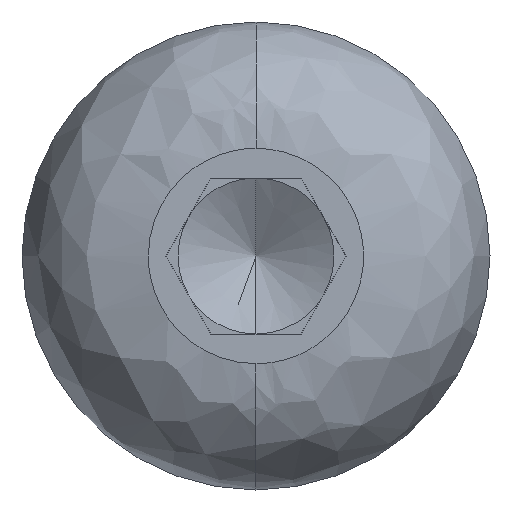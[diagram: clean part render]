
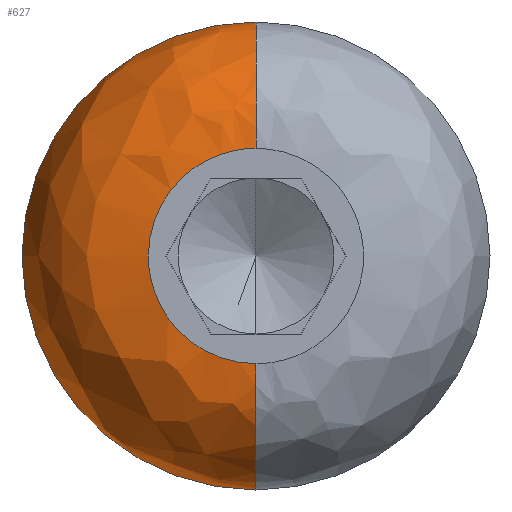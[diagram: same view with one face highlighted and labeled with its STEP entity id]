
A CAD part, left-side view. The second image highlights one B-rep face of the part: STEP entity #627.
In plain terms, the highlighted free-form (B-spline) face has degree [3, 3] with [4, 4] control points.
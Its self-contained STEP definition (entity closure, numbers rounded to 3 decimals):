
#6 = CARTESIAN_POINT ( 'NONE',  ( 0., 1.617, 2.76 ) ) ;
#28 = CARTESIAN_POINT ( 'NONE',  ( 3.24, 0., -6. ) ) ;
#30 = CARTESIAN_POINT ( 'NONE',  ( 3.24, 12., -6. ) ) ;
#32 = CARTESIAN_POINT ( 'NONE',  ( 3.24, 12., 6. ) ) ;
#37 = CARTESIAN_POINT ( 'NONE',  ( 3.24, 0., 6. ) ) ;
#38 = CARTESIAN_POINT ( 'NONE',  ( 1.342, 0., -6. ) ) ;
#46 = VERTEX_POINT ( 'NONE', #639 ) ;
#50 = CARTESIAN_POINT ( 'NONE',  ( 1.342, 12., -6. ) ) ;
#54 = CARTESIAN_POINT ( 'NONE',  ( 1.342, 12., 6. ) ) ;
#57 = CARTESIAN_POINT ( 'NONE',  ( 1.342, 0., 6. ) ) ;
#58 = CARTESIAN_POINT ( 'NONE',  ( 0., 0., -4.658 ) ) ;
#59 =( BOUNDED_SURFACE ( )  B_SPLINE_SURFACE ( 3, 3, ( 
 ( #89, #82, #70, #67 ),
 ( #65, #64, #62, #58 ),
 ( #57, #54, #50, #38 ),
 ( #37, #32, #30, #28 ) ),
 .UNSPECIFIED., .F., .F., .T. ) 
 B_SPLINE_SURFACE_WITH_KNOTS ( ( 4, 4 ),
 ( 4, 4 ),
 ( 0., 1. ),
 ( 0., 1. ),
 .UNSPECIFIED. ) 
 GEOMETRIC_REPRESENTATION_ITEM ( )  RATIONAL_B_SPLINE_SURFACE ( (
 ( 1., 0.333, 0.333, 1.),
 ( 0.805, 0.268, 0.268, 0.805),
 ( 0.805, 0.268, 0.268, 0.805),
 ( 1., 0.333, 0.333, 1.) ) ) 
 REPRESENTATION_ITEM ( '' )  SURFACE ( )  );
#62 = CARTESIAN_POINT ( 'NONE',  ( 0., 9.316, -4.658 ) ) ;
#64 = CARTESIAN_POINT ( 'NONE',  ( 0., 9.316, 4.658 ) ) ;
#65 = CARTESIAN_POINT ( 'NONE',  ( 0., 0., 4.658 ) ) ;
#67 = CARTESIAN_POINT ( 'NONE',  ( 0., 0., -2.76 ) ) ;
#70 = CARTESIAN_POINT ( 'NONE',  ( 0., 5.52, -2.76 ) ) ;
#82 = CARTESIAN_POINT ( 'NONE',  ( 0., 5.52, 2.76 ) ) ;
#89 = CARTESIAN_POINT ( 'NONE',  ( 0., 0., 2.76 ) ) ;
#92 = CARTESIAN_POINT ( 'NONE',  ( 3.24, 0., 6. ) ) ;
#124 = DIRECTION ( 'NONE',  ( 0., 0., 1. ) ) ;
#144 = DIRECTION ( 'NONE',  ( 0., 1., 0. ) ) ;
#146 =( BOUNDED_CURVE ( )  B_SPLINE_CURVE ( 3, ( #366, #321, #309, #307 ),
 .UNSPECIFIED., .F., .F. ) 
 B_SPLINE_CURVE_WITH_KNOTS ( ( 4, 4 ),
 ( 0., 1. ),
 .UNSPECIFIED. ) 
 CURVE ( )  GEOMETRIC_REPRESENTATION_ITEM ( )  RATIONAL_B_SPLINE_CURVE ( ( 1., 0.805, 0.805, 1. ) ) 
 REPRESENTATION_ITEM ( '' )  );
#154 = CARTESIAN_POINT ( 'NONE',  ( 3.24, 0., 2.76 ) ) ;
#157 = AXIS2_PLACEMENT_3D ( 'NONE', #722, #717, #710 ) ;
#182 = CIRCLE ( 'NONE', #157, 3.24 ) ;
#197 = CIRCLE ( 'NONE', #648, 3.24 ) ;
#211 = EDGE_CURVE ( 'NONE', #466, #481, #287, .T. ) ;
#277 = DIRECTION ( 'NONE',  ( 1., 0., 0. ) ) ;
#278 = CARTESIAN_POINT ( 'NONE',  ( 0., 0., 2.76 ) ) ;
#287 =( BOUNDED_CURVE ( )  B_SPLINE_CURVE ( 3, ( #315, #397, #6, #278 ),
 .UNSPECIFIED., .F., .T. ) 
 B_SPLINE_CURVE_WITH_KNOTS ( ( 4, 4 ),
 ( 0., 1. ),
 .UNSPECIFIED. ) 
 CURVE ( )  GEOMETRIC_REPRESENTATION_ITEM ( )  RATIONAL_B_SPLINE_CURVE ( ( 1., 0.805, 0.805, 1. ) ) 
 REPRESENTATION_ITEM ( '' )  );
#307 = CARTESIAN_POINT ( 'NONE',  ( 0., 2.76, 0. ) ) ;
#309 = CARTESIAN_POINT ( 'NONE',  ( 0., 2.76, -1.617 ) ) ;
#315 = CARTESIAN_POINT ( 'NONE',  ( 0., 2.76, 0. ) ) ;
#321 = CARTESIAN_POINT ( 'NONE',  ( 0., 1.617, -2.76 ) ) ;
#366 = CARTESIAN_POINT ( 'NONE',  ( 0., 0., -2.76 ) ) ;
#368 = EDGE_CURVE ( 'NONE', #46, #807, #182, .T. ) ;
#397 = CARTESIAN_POINT ( 'NONE',  ( 0., 2.76, 1.617 ) ) ;
#435 = CARTESIAN_POINT ( 'NONE',  ( 0., 0., 2.76 ) ) ;
#449 = AXIS2_PLACEMENT_3D ( 'NONE', #687, #277, #476 ) ;
#466 = VERTEX_POINT ( 'NONE', #519 ) ;
#476 = DIRECTION ( 'NONE',  ( 0., 0., 1. ) ) ;
#481 = VERTEX_POINT ( 'NONE', #435 ) ;
#514 = EDGE_CURVE ( 'NONE', #46, #466, #146, .T. ) ;
#519 = CARTESIAN_POINT ( 'NONE',  ( 0., 2.76, 0. ) ) ;
#578 = EDGE_CURVE ( 'NONE', #481, #772, #197, .T. ) ;
#615 = CIRCLE ( 'NONE', #449, 6. ) ;
#618 = ORIENTED_EDGE ( 'NONE', *, *, #368, .F. ) ;
#627 = ADVANCED_FACE ( 'NONE', ( #707 ), #59, .T. ) ;
#634 = ORIENTED_EDGE ( 'NONE', *, *, #514, .T. ) ;
#639 = CARTESIAN_POINT ( 'NONE',  ( 0., 0., -2.76 ) ) ;
#642 = ORIENTED_EDGE ( 'NONE', *, *, #211, .T. ) ;
#648 = AXIS2_PLACEMENT_3D ( 'NONE', #154, #144, #124 ) ;
#659 = ORIENTED_EDGE ( 'NONE', *, *, #578, .T. ) ;
#684 = ORIENTED_EDGE ( 'NONE', *, *, #745, .F. ) ;
#686 = EDGE_LOOP ( 'NONE', ( #618, #634, #642, #659, #684 ) ) ;
#687 = CARTESIAN_POINT ( 'NONE',  ( 3.24, 0., 0. ) ) ;
#707 = FACE_OUTER_BOUND ( 'NONE', #686, .T. ) ;
#710 = DIRECTION ( 'NONE',  ( 0., 0., -1. ) ) ;
#717 = DIRECTION ( 'NONE',  ( 0., -1., 0. ) ) ;
#722 = CARTESIAN_POINT ( 'NONE',  ( 3.24, 0., -2.76 ) ) ;
#745 = EDGE_CURVE ( 'NONE', #807, #772, #615, .T. ) ;
#772 = VERTEX_POINT ( 'NONE', #92 ) ;
#789 = CARTESIAN_POINT ( 'NONE',  ( 3.24, 0., -6. ) ) ;
#807 = VERTEX_POINT ( 'NONE', #789 ) ;
